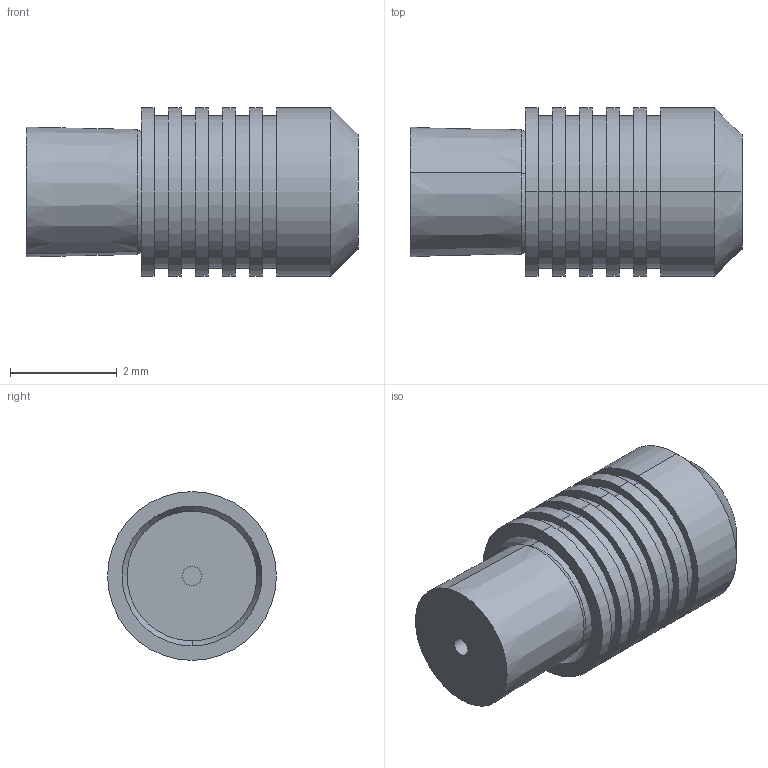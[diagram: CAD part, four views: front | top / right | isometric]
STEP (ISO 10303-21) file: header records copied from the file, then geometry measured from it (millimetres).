
FILE_DESCRIPTION (( 'STEP AP214' ), '1' );
FILE_NAME ('PLPA1250010A.STEP', '2021-04-13T19:44:12', ( '' ), ( '' ), 'SwSTEP 2.0', 'SolidWorks 2019', '' );
FILE_SCHEMA (( 'AUTOMOTIVE_DESIGN' ));
Length unit declared in the file: inch
Products named in the file (3): PLPD1255010; PLPA1250010A; PLPD1254010
Assembly tree (2 placements, depth 2):
  PLPA1250010A
    PLPD1255010
    PLPD1254010
Bounding box: 6.22 x 3.16 x 3.16 mm (x, y, z)
Volume: 28.3 mm3; surface area: 120.9 mm2
Topology: 2 solids, 2 shells, 55 faces, 108 edges, 68 vertices
Faces by surface type: cylinder 26, plane 15, cone 12, torus 2
Entity records: 1564 total; most frequent: DIRECTION 298, CARTESIAN_POINT 236, ORIENTED_EDGE 216, AXIS2_PLACEMENT_3D 130, EDGE_CURVE 108, CIRCLE 70, VERTEX_POINT 68, EDGE_LOOP 68
